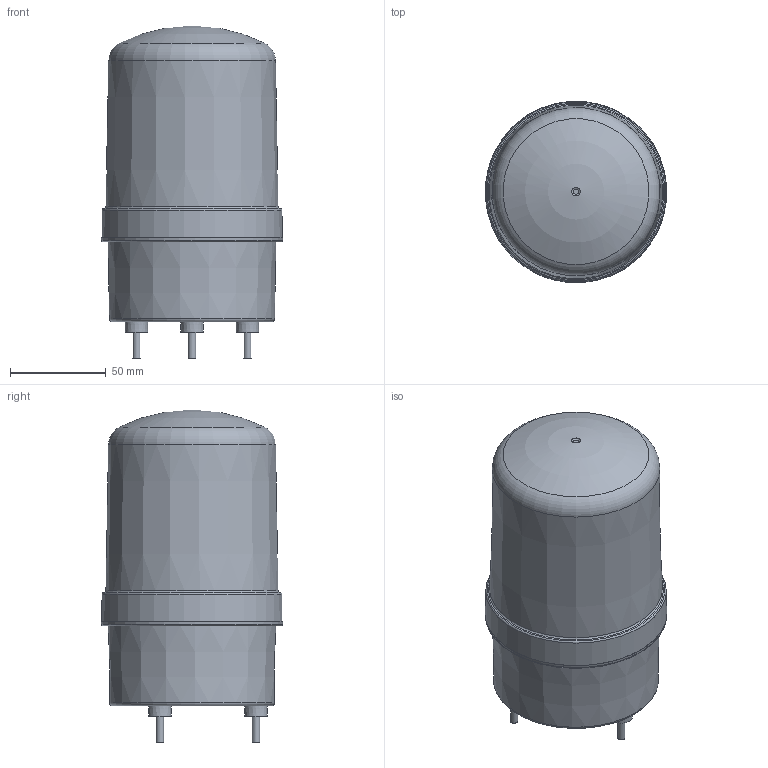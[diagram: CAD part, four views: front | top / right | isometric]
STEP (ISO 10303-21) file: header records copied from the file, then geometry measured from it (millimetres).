
FILE_DESCRIPTION(/* description */ (''),/* implementation_level */ '2;1');
FILE_NAME(/* name */ 'JDS100E-SJLS.stp',/* time_stamp */ '2024-11-13T18:56:28+08:00',/* author */ (''),/* organization */ (''),/* preprocessor_version */ 'ST-DEVELOPER v16.7',/* originating_system */ 'SIEMENS PLM Software NX 12.0',/* authorisation */ '');
FILE_SCHEMA (('AUTOMOTIVE_DESIGN { 1 0 10303 214 3 1 1 1 }'));
Length unit declared in the file: millimetre
Products named in the file (1): JDS100E-SJLS
Bounding box: 94.94 x 94.94 x 173.67 mm (x, y, z)
Volume: 86010.1 mm3; surface area: 127160.3 mm2
Topology: 4 solids, 5 shells, 639 faces, 1715 edges, 1113 vertices
Faces by surface type: plane 478, cone 75, cylinder 47, sphere 19, torus 18, bspline 2
Full cylindrical faces by diameter (mm): 2.5 x2, 3.8 x6, 10 x3, 10.6 x3, 79 x1
Entity records: 19854 total; most frequent: CARTESIAN_POINT 4791, ORIENTED_EDGE 3174, DIRECTION 2823, EDGE_CURVE 1587, VERTEX_POINT 1092, AXIS2_PLACEMENT_3D 961, LINE 901, VECTOR 901
